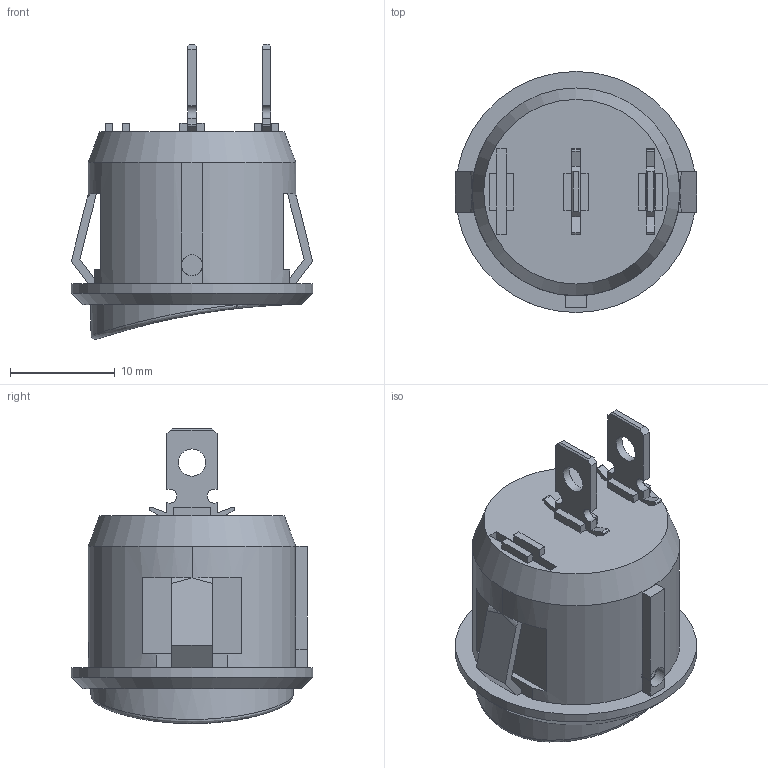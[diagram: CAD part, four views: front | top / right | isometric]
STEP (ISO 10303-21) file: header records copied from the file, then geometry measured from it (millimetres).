
FILE_DESCRIPTION(/* description */ (''),/* implementation_level */ '2;1');
FILE_NAME(/* name */ 'RA1-1A-DC-2-B.stp',/* time_stamp */ '2024-10-25T13:22:30-07:00',/* author */ ('tylerl'),/* organization */ (''),/* preprocessor_version */ 'ST-DEVELOPER v20',/* originating_system */ 'Autodesk Inventor 2025',/* authorisation */ '');
FILE_SCHEMA (('CONFIG_CONTROL_DESIGN','AUTOMOTIVE_DESIGN { 1 0 10303 214 3 1 1 }'));
Products named in the file (3): RA1-1A-DC-2-B; Base; Bottom
Assembly tree (2 placements, depth 2):
  RA1-1A-DC-2-B
    Base
    Bottom
Bounding box: 23 x 23 x 28.13 mm (x, y, z)
Volume: 5470.1 mm3; surface area: 3047.4 mm2
Topology: 3 solids, 3 shells, 133 faces, 356 edges, 228 vertices
Faces by surface type: plane 101, cylinder 23, bspline 7, cone 2
Full cylindrical faces by diameter (mm): 2 x2, 2.6 x2, 23 x1
Entity records: 4666 total; most frequent: CARTESIAN_POINT 1249, ORIENTED_EDGE 700, DIRECTION 660, EDGE_CURVE 350, LINE 270, VECTOR 270, VERTEX_POINT 228, AXIS2_PLACEMENT_3D 195
